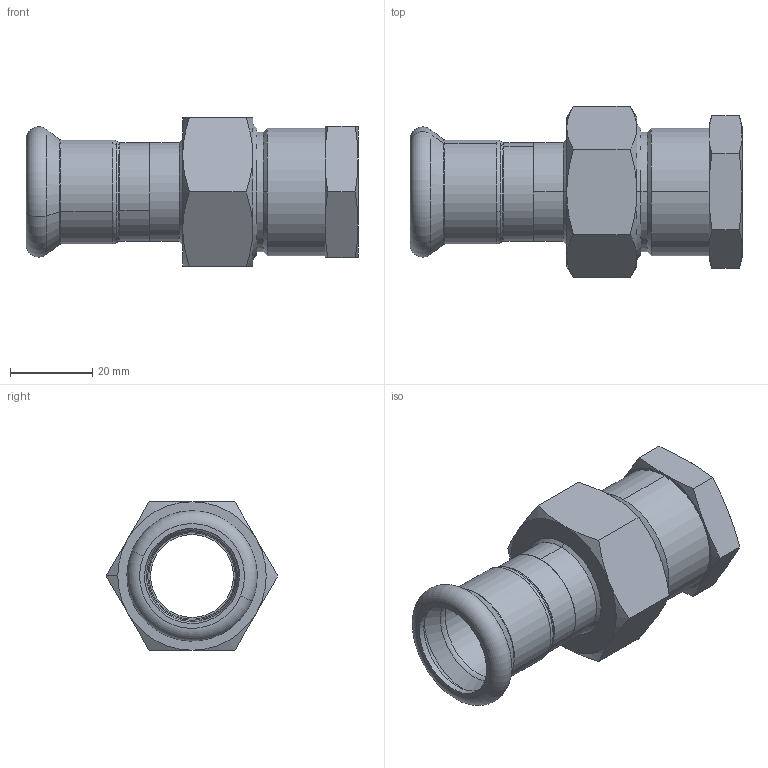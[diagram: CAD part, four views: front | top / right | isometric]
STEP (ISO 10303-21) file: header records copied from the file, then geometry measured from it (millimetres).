
FILE_DESCRIPTION (( 'STEP AP203' ), '1' );
FILE_NAME ('GDA5455.STEP', '2019-01-17T07:32:03', ( '' ), ( '' ), 'SwSTEP 2.0', 'SolidWorks 2015', '' );
FILE_SCHEMA (( 'CONFIG_CONTROL_DESIGN' ));
Length unit declared in the file: millimetre
Products named in the file (6): 囀俋佪蛌遙諉芛1-0.75_1; GDA5455; 22｡ﾁ1; T-ｉ-01-22; ZL-Ⅰ-01×1_1; 1
Assembly tree (5 placements, depth 2):
  GDA5455
    22｡ﾁ1
    T-ｉ-01-22
    ZL-Ⅰ-01×1_1
    囀俋佪蛌遙諉芛1-0.75_1
    1
Bounding box: 80.5 x 41.57 x 36 mm (x, y, z)
Volume: 27893.9 mm3; surface area: 20984.6 mm2
Topology: 5 solids, 5 shells, 129 faces, 276 edges, 163 vertices
Faces by surface type: cone 49, cylinder 36, plane 28, torus 16
Entity records: 4413 total; most frequent: CARTESIAN_POINT 955, DIRECTION 655, ORIENTED_EDGE 552, AXIS2_PLACEMENT_3D 291, EDGE_CURVE 276, VERTEX_POINT 163, CIRCLE 154, EDGE_LOOP 145
